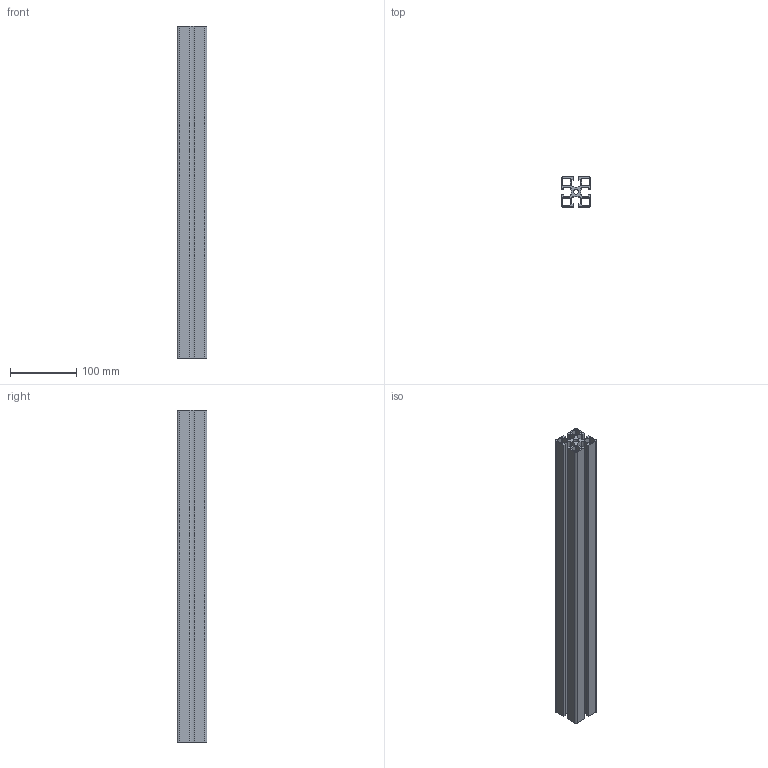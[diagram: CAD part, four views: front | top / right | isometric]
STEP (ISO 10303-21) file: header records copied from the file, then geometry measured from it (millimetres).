
FILE_DESCRIPTION (( 'STEP AP214' ), '1' );
FILE_NAME ('SA01001.step', '2024-12-03T16:28:08', ( '' ), ( '' ), 'SwSTEP 2.0', 'SolidWorks 2023', '' );
FILE_SCHEMA (( 'AUTOMOTIVE_DESIGN' ));
Length unit declared in the file: millimetre
Products named in the file (1): SA01001
Bounding box: 45 x 45 x 500 mm (x, y, z)
Volume: 352388.3 mm3; surface area: 266005.1 mm2
Topology: 1 solids, 1 shells, 83 faces, 243 edges, 162 vertices
Faces by surface type: plane 50, cylinder 33
Full cylindrical faces by diameter (mm): 7.45 x1
Entity records: 2801 total; most frequent: CARTESIAN_POINT 488, ORIENTED_EDGE 484, DIRECTION 476, EDGE_CURVE 242, VECTOR 176, LINE 176, VERTEX_POINT 162, AXIS2_PLACEMENT_3D 150
